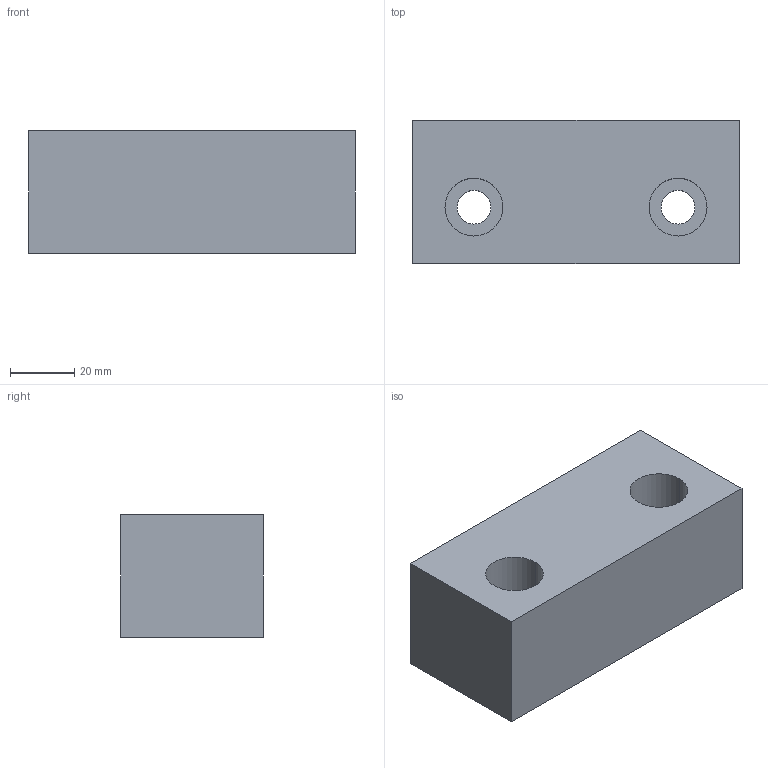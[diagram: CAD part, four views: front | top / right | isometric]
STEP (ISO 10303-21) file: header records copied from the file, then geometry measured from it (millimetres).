
FILE_DESCRIPTION (( 'STEP AP214' ), '1' );
FILE_NAME ('HMVJ-41.5A, S [05-0085, 05-0088 ref].step', '2023-05-05T20:38:22', ( '' ), ( '' ), 'SwSTEP 2.0', 'SolidWorks 2022', '' );
FILE_SCHEMA (( 'AUTOMOTIVE_DESIGN' ));
Length unit declared in the file: millimetre
Products named in the file (1): HMVJ-41.5A, S [05-0085, 05-0088 ref]
Bounding box: 101.6 x 44.45 x 38.1 mm (x, y, z)
Volume: 156064.8 mm3; surface area: 23647.9 mm2
Topology: 1 solids, 1 shells, 16 faces, 36 edges, 24 vertices
Faces by surface type: cylinder 8, plane 8
Entity records: 608 total; most frequent: DIRECTION 86, CARTESIAN_POINT 77, ORIENTED_EDGE 72, EDGE_CURVE 36, AXIS2_PLACEMENT_3D 33, VERTEX_POINT 24, EDGE_LOOP 22, LINE 20
